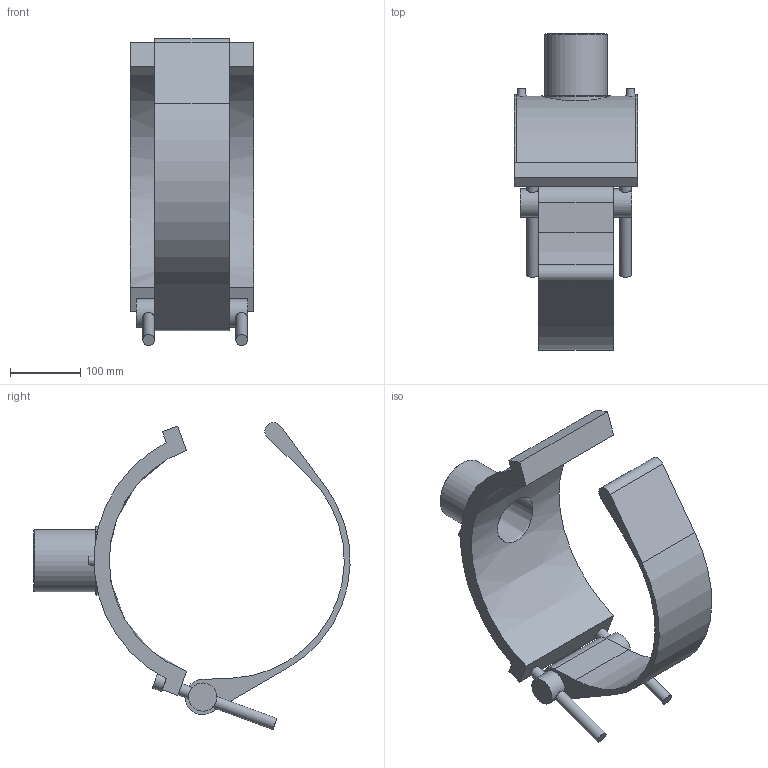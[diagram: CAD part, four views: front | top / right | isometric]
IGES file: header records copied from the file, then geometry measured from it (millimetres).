
Global section: file name: 5958DB03120030.ipt; native system: Autodesk Inventor 2019; preprocessor: unknown; author: KIM; date: 20210830.101328; units: inch
Bounding box: 176.02 x 448.96 x 435.69 mm (x, y, z)
Volume: 2699056.3 mm3; surface area: 397535.4 mm2
Topology: 1 solids, 1 shells, 62 faces, 142 edges, 96 vertices
Faces by surface type: plane 34, cylinder 19, revolution 6, cone 3
Full cylindrical faces by diameter (mm): 4 x2, 16.69 x4, 23.366 x2, 40.056 x2, 88.7 x1
